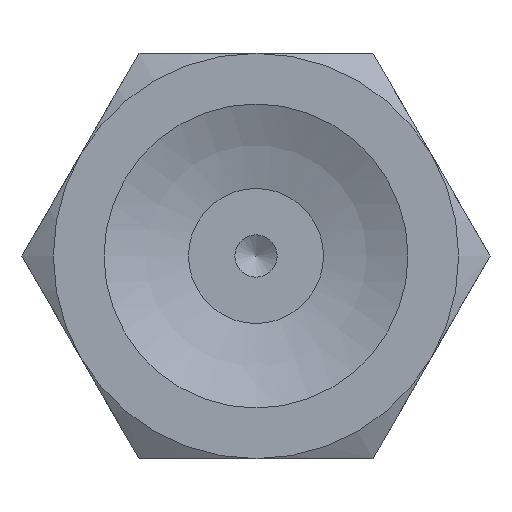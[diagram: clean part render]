
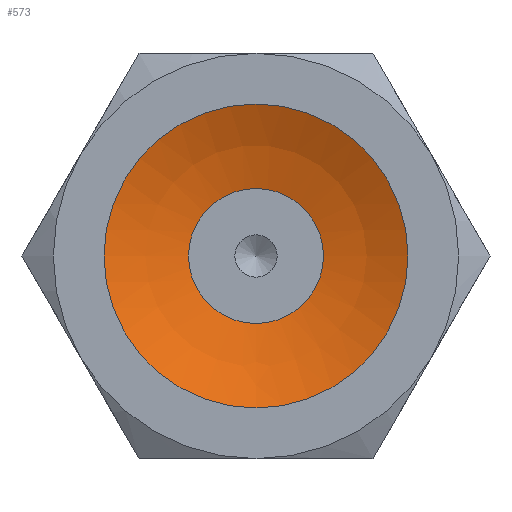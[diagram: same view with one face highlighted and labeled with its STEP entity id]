
A CAD part, front view. The second image highlights one B-rep face of the part: STEP entity #573.
In plain terms, the highlighted spherical face has radius 10.203 mm.
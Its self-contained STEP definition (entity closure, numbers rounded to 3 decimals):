
#573=ADVANCED_FACE('',(#878,#879),#880,.F.);
#878=FACE_OUTER_BOUND('',#1218,.T.);
#879=FACE_OUTER_BOUND('',#1219,.T.);
#880=SPHERICAL_SURFACE('',#1220,10.203);
#1218=EDGE_LOOP('',(#2049));
#1219=EDGE_LOOP('',(#2050));
#1220=AXIS2_PLACEMENT_3D('',#2051,#2052,#2053);
#2049=ORIENTED_EDGE('',*,*,#2353,.T.);
#2050=ORIENTED_EDGE('',*,*,#2354,.F.);
#2051=CARTESIAN_POINT('',(0.,-9.157,0.));
#2052=DIRECTION('',(0.0,-1.0,0.));
#2053=DIRECTION('',(1.0,0.0,0.0));
#2353=EDGE_CURVE('',#2727,#2727,#2728,.T.);
#2354=EDGE_CURVE('',#2729,#2729,#2730,.T.);
#2727=VERTEX_POINT('',#3697);
#2728=CIRCLE('',#3698,4.5);
#2729=VERTEX_POINT('',#3699);
#2730=CIRCLE('',#3700,2.);
#3697=CARTESIAN_POINT('',(0.0,0.,-4.5));
#3698=AXIS2_PLACEMENT_3D('',#4048,#4049,#4050);
#3699=CARTESIAN_POINT('',(0.0,0.848,-2.));
#3700=AXIS2_PLACEMENT_3D('',#4051,#4052,#4053);
#4048=CARTESIAN_POINT('',(0.0,0.,0.0));
#4049=DIRECTION('',(0.0,-1.0,0.));
#4050=DIRECTION('',(0.0,0.,-1.0));
#4051=CARTESIAN_POINT('',(0.0,0.848,0.0));
#4052=DIRECTION('',(0.0,-1.0,0.));
#4053=DIRECTION('',(0.0,0.,-1.0));
